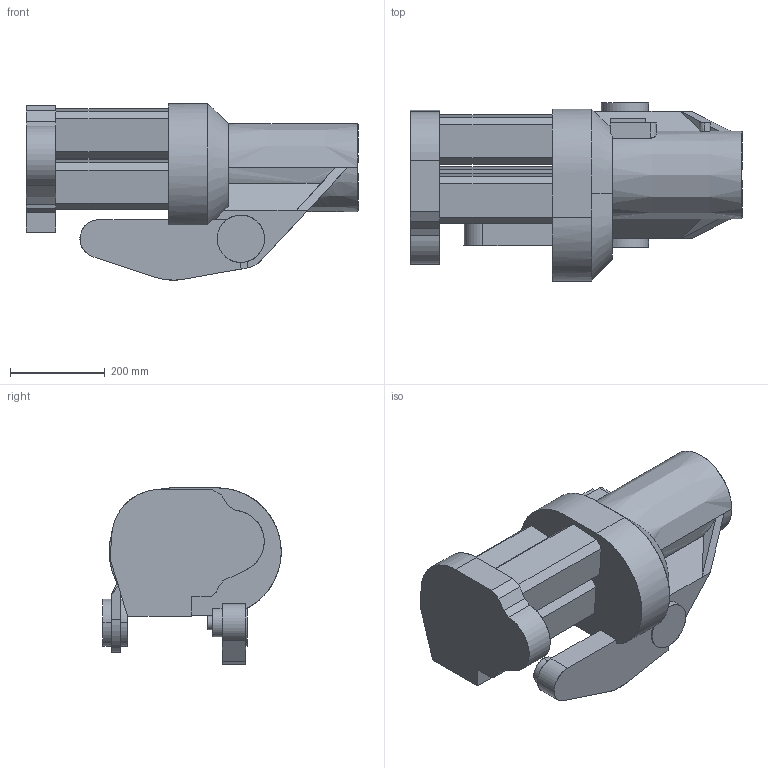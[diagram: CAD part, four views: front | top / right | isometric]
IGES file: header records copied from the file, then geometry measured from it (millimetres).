
Start section: SolidWorks IGES file using analytic representation for surfaces
Global section: file name: C:\Users\sefaane2\Downloads\Sparad modell IRB4400 10\Final SolidWorks CADSIM models and .txt file\Macro\Macro_IRC5_IGES_j\IRB4400_L10-253_IRC5_rev03_LINK03_CAD.IGS; native system: SolidWorks 2014; preprocessor: SolidWorks 2014; author: SEFAANE2; date: 161103.132458; units: millimetre
Bounding box: 701.5 x 376.7 x 372.64 mm (x, y, z)
Surface area: 1083620.1 mm2 (no closed solid volume)
Topology: 0 solids, 0 shells, 140 faces, 2601 edges, 2595 vertices
Faces by surface type: bspline 95, revolution 45
